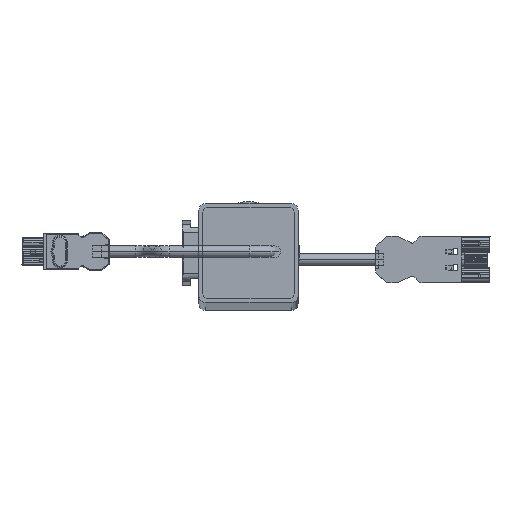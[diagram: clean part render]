
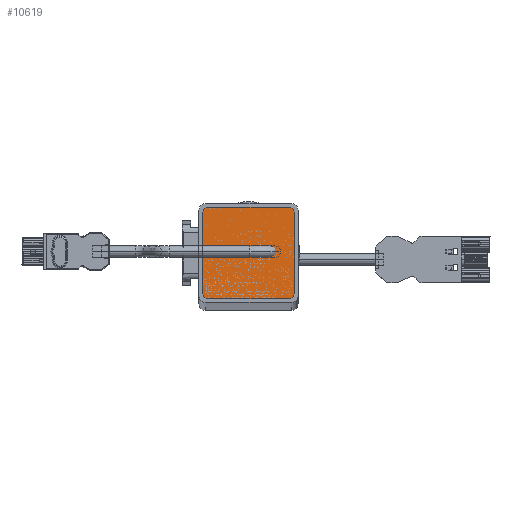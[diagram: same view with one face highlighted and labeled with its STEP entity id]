
A CAD part, top view. The second image highlights one B-rep face of the part: STEP entity #10619.
In plain terms, the highlighted planar face has unit normal (0, 0, 1).
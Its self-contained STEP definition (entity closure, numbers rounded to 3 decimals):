
#255 = AXIS2_PLACEMENT_3D ( 'NONE', #2758, #25994, #38133 ) ;
#351 = DIRECTION ( 'NONE',  ( 0., 0., -1. ) ) ;
#701 = CARTESIAN_POINT ( 'NONE',  ( 3312.3, -3828.8, 456.646 ) ) ;
#816 = DIRECTION ( 'NONE',  ( 1., 0., 0. ) ) ;
#1344 = EDGE_CURVE ( 'NONE', #39009, #13007, #34503, .T. ) ;
#1992 = CARTESIAN_POINT ( 'NONE',  ( 3312.3, -3831.8, 456.646 ) ) ;
#2425 = CARTESIAN_POINT ( 'NONE',  ( 3340., -3856.5, 456.646 ) ) ;
#2758 = CARTESIAN_POINT ( 'NONE',  ( 3315.3, -3831.8, 456.646 ) ) ;
#3116 = CIRCLE ( 'NONE', #6288, 3. ) ;
#3940 = ORIENTED_EDGE ( 'NONE', *, *, #7197, .F. ) ;
#4162 = CIRCLE ( 'NONE', #18782, 3. ) ;
#4296 = LINE ( 'NONE', #22943, #10489 ) ;
#4346 = CARTESIAN_POINT ( 'NONE',  ( 3312.3, -3881.2, 456.646 ) ) ;
#6020 = VECTOR ( 'NONE', #23847, 1000. ) ;
#6038 = CARTESIAN_POINT ( 'NONE',  ( 3312.3, -3884.2, 456.646 ) ) ;
#6288 = AXIS2_PLACEMENT_3D ( 'NONE', #9162, #12134, #816 ) ;
#6996 = CARTESIAN_POINT ( 'NONE',  ( 3364.7, -3831.8, 456.646 ) ) ;
#7197 = EDGE_CURVE ( 'NONE', #11213, #38365, #33763, .T. ) ;
#8757 = PLANE ( 'NONE',  #33242 ) ;
#9162 = CARTESIAN_POINT ( 'NONE',  ( 3315.3, -3881.2, 456.646 ) ) ;
#9657 = CARTESIAN_POINT ( 'NONE',  ( 3367.7, -3831.8, 456.646 ) ) ;
#10067 = ORIENTED_EDGE ( 'NONE', *, *, #13477, .F. ) ;
#10489 = VECTOR ( 'NONE', #23153, 1000. ) ;
#10619 = ADVANCED_FACE ( 'NONE', ( #24266 ), #8757, .F. ) ;
#11213 = VERTEX_POINT ( 'NONE', #31732 ) ;
#11809 = ORIENTED_EDGE ( 'NONE', *, *, #32473, .F. ) ;
#12134 = DIRECTION ( 'NONE',  ( 0., 0., -1. ) ) ;
#12452 = DIRECTION ( 'NONE',  ( 1., 0., 0. ) ) ;
#12810 = DIRECTION ( 'NONE',  ( 1., 0., 0. ) ) ;
#13007 = VERTEX_POINT ( 'NONE', #32978 ) ;
#13477 = EDGE_CURVE ( 'NONE', #18284, #29828, #4162, .T. ) ;
#13901 = CARTESIAN_POINT ( 'NONE',  ( 3315.3, -3884.2, 456.646 ) ) ;
#14343 = VECTOR ( 'NONE', #12810, 1000. ) ;
#14525 = DIRECTION ( 'NONE',  ( 0., 0., -1. ) ) ;
#14673 = LINE ( 'NONE', #17855, #6020 ) ;
#14689 = ORIENTED_EDGE ( 'NONE', *, *, #19542, .F. ) ;
#17343 = CARTESIAN_POINT ( 'NONE',  ( 3367.7, -3881.2, 456.646 ) ) ;
#17733 = LINE ( 'NONE', #6038, #35038 ) ;
#17855 = CARTESIAN_POINT ( 'NONE',  ( 3367.7, -3828.8, 456.646 ) ) ;
#18284 = VERTEX_POINT ( 'NONE', #17343 ) ;
#18438 = ORIENTED_EDGE ( 'NONE', *, *, #24225, .F. ) ;
#18520 = AXIS2_PLACEMENT_3D ( 'NONE', #6996, #18942, #19123 ) ;
#18782 = AXIS2_PLACEMENT_3D ( 'NONE', #33345, #351, #12452 ) ;
#18942 = DIRECTION ( 'NONE',  ( 0., 0., -1. ) ) ;
#19123 = DIRECTION ( 'NONE',  ( 1., 0., 0. ) ) ;
#19542 = EDGE_CURVE ( 'NONE', #13007, #11213, #21561, .T. ) ;
#20552 = EDGE_LOOP ( 'NONE', ( #10067, #11809, #3940, #14689, #32921, #39139, #25866, #18438 ) ) ;
#21382 = CARTESIAN_POINT ( 'NONE',  ( 3364.7, -3884.2, 456.646 ) ) ;
#21561 = LINE ( 'NONE', #701, #14343 ) ;
#22943 = CARTESIAN_POINT ( 'NONE',  ( 3312.3, -3828.8, 456.646 ) ) ;
#23153 = DIRECTION ( 'NONE',  ( 0., 1., 0. ) ) ;
#23765 = VERTEX_POINT ( 'NONE', #4346 ) ;
#23847 = DIRECTION ( 'NONE',  ( 0., -1., 0. ) ) ;
#24225 = EDGE_CURVE ( 'NONE', #29828, #38906, #17733, .T. ) ;
#24266 = FACE_OUTER_BOUND ( 'NONE', #20552, .T. ) ;
#25866 = ORIENTED_EDGE ( 'NONE', *, *, #34385, .F. ) ;
#25994 = DIRECTION ( 'NONE',  ( 0., 0., -1. ) ) ;
#29141 = EDGE_CURVE ( 'NONE', #23765, #39009, #4296, .T. ) ;
#29828 = VERTEX_POINT ( 'NONE', #21382 ) ;
#31732 = CARTESIAN_POINT ( 'NONE',  ( 3364.7, -3828.8, 456.646 ) ) ;
#32473 = EDGE_CURVE ( 'NONE', #38365, #18284, #14673, .T. ) ;
#32867 = DIRECTION ( 'NONE',  ( -1., 0., 0. ) ) ;
#32921 = ORIENTED_EDGE ( 'NONE', *, *, #1344, .F. ) ;
#32978 = CARTESIAN_POINT ( 'NONE',  ( 3315.3, -3828.8, 456.646 ) ) ;
#33229 = DIRECTION ( 'NONE',  ( -1., 0., 0. ) ) ;
#33242 = AXIS2_PLACEMENT_3D ( 'NONE', #2425, #14525, #33229 ) ;
#33345 = CARTESIAN_POINT ( 'NONE',  ( 3364.7, -3881.2, 456.646 ) ) ;
#33763 = CIRCLE ( 'NONE', #18520, 3. ) ;
#34385 = EDGE_CURVE ( 'NONE', #38906, #23765, #3116, .T. ) ;
#34503 = CIRCLE ( 'NONE', #255, 3. ) ;
#35038 = VECTOR ( 'NONE', #32867, 1000. ) ;
#38133 = DIRECTION ( 'NONE',  ( 1., 0., 0. ) ) ;
#38365 = VERTEX_POINT ( 'NONE', #9657 ) ;
#38906 = VERTEX_POINT ( 'NONE', #13901 ) ;
#39009 = VERTEX_POINT ( 'NONE', #1992 ) ;
#39139 = ORIENTED_EDGE ( 'NONE', *, *, #29141, .F. ) ;
